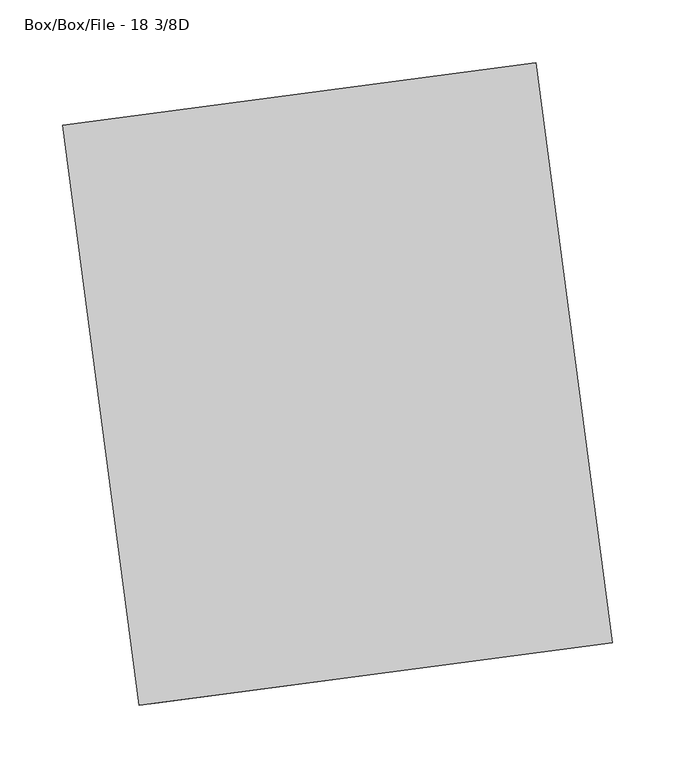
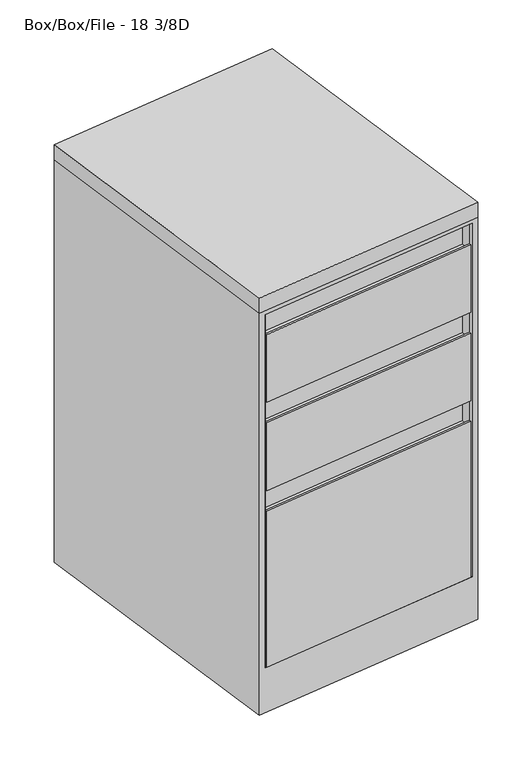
"""IFC4 building model written with IfcOpenShell, lengths in millimetres: furniture geometry, Steelcase - Universal Storage - Mobile Pedestal - Flush Steel : Box/Box/File - 18 3/8D."""

from ifc_helpers import new_model, si_unit, point, frame, frame_2d, origin, place, context, project, spatial, polyline, circle_curve, trimmed, segment, composite_curve, outline, extrude, faceted_brep, source, transform, mapped, element, save


def box_box_file_18_3_8d_73b12e86(model_context):
    return source(origin(), model_context, "Body", "SolidModel", [
        extrude(outline(polyline([(377.7311592, 49.8013183), (0.0, 0.0), (-61.0232154, 462.8465805), (316.7079438, 512.6478988), (377.7311592, 49.8013183)])), frame((0.0, 0.0, 685.8), z_axis=(0.0, 0.0, 1.0), x_axis=(1.0, 0.0, 0.0)), (0.0, 0.0, 1.0), 25.4),
        extrude(outline(composite_curve([segment(trimmed(circle_curve(frame_2d((0.0, -31.75)), 31.75), [point((0.0, -63.5))], [point((0.0, 0.0))], False, "CARTESIAN"), True, "CONTINUOUS"), segment(trimmed(circle_curve(frame_2d((0.0, -31.75)), 31.75), [point((0.0, 0.0))], [point((0.0, -63.5))], False, "CARTESIAN"), True, "CONTINUOUS")], self_intersect=False)), frame((269.7691174, 487.3712047, 31.75), z_axis=(0.9914203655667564, 0.13071212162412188, 0.0), x_axis=(0.0, 0.0, -1.0)), (0.0, 0.0, 1.0), 38.1),
        extrude(outline(composite_curve([segment(trimmed(circle_curve(frame_2d((0.0, -31.75)), 31.75), [point((0.0, -63.5))], [point((0.0, 0.0))], False, "CARTESIAN"), True, "CONTINUOUS"), segment(trimmed(circle_curve(frame_2d((0.0, -31.75)), 31.75), [point((0.0, 0.0))], [point((0.0, -63.5))], False, "CARTESIAN"), True, "CONTINUOUS")], self_intersect=False)), frame((-46.8854607, 445.4048859, 31.75), z_axis=(0.9914203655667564, 0.13071212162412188, 0.0), x_axis=(0.0, 0.0, -1.0)), (0.0, 0.0, 1.0), 38.1),
        extrude(outline(composite_curve([segment(trimmed(circle_curve(frame_2d((0.0, -31.75)), 31.75), [point((0.0, -63.5))], [point((0.0, 0.0))], False, "CARTESIAN"), True, "CONTINUOUS"), segment(trimmed(circle_curve(frame_2d((0.0, -31.75)), 31.75), [point((0.0, 0.0))], [point((0.0, -63.5))], False, "CARTESIAN"), True, "CONTINUOUS")], self_intersect=False)), frame((317.5119829, 125.2529213, 31.75), z_axis=(0.9914203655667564, 0.13071212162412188, 0.0), x_axis=(0.0, 0.0, -1.0)), (0.0, 0.0, 1.0), 38.1),
        extrude(outline(composite_curve([segment(trimmed(circle_curve(frame_2d((0.0, -31.75)), 31.75), [point((0.0, -63.5))], [point((0.0, 0.0))], False, "CARTESIAN"), True, "CONTINUOUS"), segment(trimmed(circle_curve(frame_2d((0.0, -31.75)), 31.75), [point((0.0, 0.0))], [point((0.0, -63.5))], False, "CARTESIAN"), True, "CONTINUOUS")], self_intersect=False)), frame((0.8565804, 83.5040316, 31.75), z_axis=(0.9914203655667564, 0.13071212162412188, 0.0), x_axis=(0.0, 0.0, -1.0)), (0.0, 0.0, 1.0), 38.1),
        extrude(outline(polyline([(364.8325558, 51.3029701), (12.2838426, 4.8217882), (10.2087876, 20.560587), (362.7575008, 67.0417688), (364.8325558, 51.3029701)])), frame((0.0, 0.0, 82.5919123), z_axis=(0.0, 0.0, 1.0), x_axis=(1.0, 0.0, 0.0)), (0.0, 0.0, 1.0), 254.000003),
        extrude(outline(polyline([(365.2474805, 48.1558644), (12.6987674, 1.6746826), (12.2838426, 4.8217882), (364.8325558, 51.3029701), (365.2474805, 48.1558644)])), frame((0.0, 0.0, 82.5919123), z_axis=(0.0, 0.0, 1.0), x_axis=(1.0, 0.0, 0.0)), (0.0, 0.0, 1.0), 263.524997),
        extrude(outline(polyline([(364.8325558, 51.3029701), (12.2838426, 4.8217882), (10.2087876, 20.560587), (362.7575008, 67.0417688), (364.8325558, 51.3029701)])), frame((0.0, 0.0, 380.9149214), z_axis=(0.0, 0.0, 1.0), x_axis=(1.0, 0.0, 0.0)), (0.0, 0.0, 1.0), 104.9019879),
        extrude(outline(polyline([(365.2475369, 48.1554365), (12.6988238, 1.6742547), (12.2838426, 4.8217882), (364.8325558, 51.3029701), (365.2475369, 48.1554365)])), frame((0.0, 0.0, 380.9149214), z_axis=(0.0, 0.0, 1.0), x_axis=(1.0, 0.0, 0.0)), (0.0, 0.0, 1.0), 114.3),
        extrude(outline(polyline([(364.8325558, 51.3029701), (12.2838426, 4.8217882), (10.2087876, 20.560587), (362.7575008, 67.0417688), (364.8325558, 51.3029701)])), frame((0.0, 0.0, 530.2250121), z_axis=(0.0, 0.0, 1.0), x_axis=(1.0, 0.0, 0.0)), (0.0, 0.0, 1.0), 104.7749939),
        extrude(outline(polyline([(365.2475369, 48.1554365), (12.6988238, 1.6742547), (12.2838426, 4.8217882), (364.8325558, 51.3029701), (365.2475369, 48.1554365)])), frame((0.0, 0.0, 530.2250121), z_axis=(0.0, 0.0, 1.0), x_axis=(1.0, 0.0, 0.0)), (0.0, 0.0, 1.0), 114.2999758),
        faceted_brep([(316.7079438, 512.6478988, 685.8), (377.7311592, 49.8013183, 685.8), (377.7311592, 49.8013183, 6.35), (316.7079438, 512.6478988, 6.35), (-61.0232154, 462.8465805, 685.8), (-61.0232154, 462.8465805, 6.35), (0.0, 0.0, 6.35), (0.0, 0.0, 685.8), (368.3957391, 48.5705058, 679.45), (368.3957391, 48.5705058, 82.5919123), (9.5512903, 1.2592735, 82.5919123), (9.5512903, 1.2592735, 679.45), (12.2838426, 4.8217882, 679.45), (10.2087876, 20.560587, 679.45), (362.7567941, 67.0416757, 679.45), (364.8324685, 51.3036321, 679.45), (10.2087876, 20.560587, 82.5919123), (362.7567941, 67.0416757, 82.5919123), (12.2838426, 4.8217882, 82.5919123), (364.8324685, 51.3036321, 82.5919123)], [[[0, 1, 2, 3]], [[4, 5, 6, 7]], [[1, 0, 4, 7]], [[2, 1, 7, 6], [8, 9, 10, 11]], [[8, 11, 12, 13, 14, 15]], [[14, 13, 16, 17]], [[17, 16, 18, 10, 9, 19]], [[3, 2, 6, 5]], [[0, 3, 5, 4]], [[11, 10, 18, 12]], [[12, 18, 16, 13]], [[19, 15, 14, 17]], [[15, 19, 9, 8]]]),
    ])


if __name__ == "__main__":
    model = new_model("IFC4")
    model_context = context("Model", 3, world=origin())
    ifc_project = project(units=[si_unit("LENGTHUNIT", "METRE", prefix="MILLI")], contexts=[model_context])
    site = spatial("IfcSite", under=ifc_project)
    building = spatial("IfcBuilding", under=site)
    placement = place(None, origin())
    box_box_file_18_3_8d_shape = box_box_file_18_3_8d_73b12e86(model_context)
    element("IfcFurniture", 1, ObjectType="Steelcase - Universal Storage - Mobile Pedestal - Flush Steel : Box/Box/File - 18 3/8D", at=placement, inside=building, context=model_context, shape_type="MappedRepresentation", body=[
        mapped(box_box_file_18_3_8d_shape, transform((0.0, 0.0, 0.0), x_axis=(1.0, 0.0, 0.0), y_axis=(0.0, 1.0, 0.0), z_axis=(0.0, 0.0, 1.0))),
    ])
    save(model, "model.ifc")
